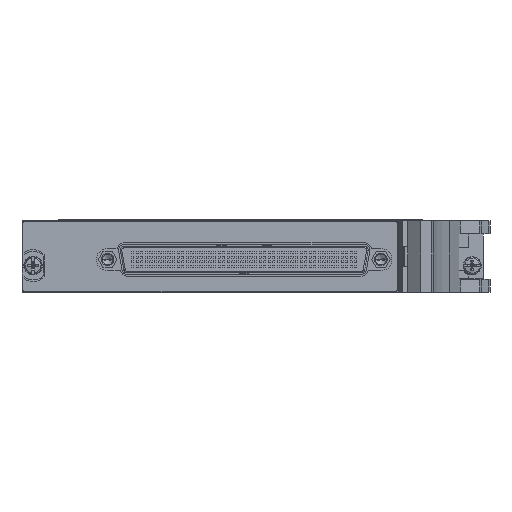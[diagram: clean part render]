
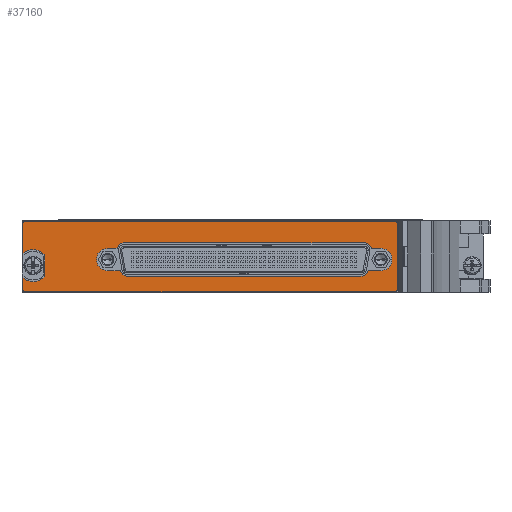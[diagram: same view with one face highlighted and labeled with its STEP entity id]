
A CAD part, left-side view. The second image highlights one B-rep face of the part: STEP entity #37160.
In plain terms, the highlighted planar face has unit normal (-1, 0, 0).
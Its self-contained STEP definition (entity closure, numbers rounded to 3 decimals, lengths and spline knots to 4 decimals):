
#6179=CARTESIAN_POINT('',(-4.2877,0.5347,0.6655));
#6180=DIRECTION('',(-1.,0.,0.));
#6181=DIRECTION('',(0.,0.,1.));
#6182=AXIS2_PLACEMENT_3D('',#6179,#6180,#6181);
#6184=DIRECTION('',(0.,1.,0.));
#6185=VECTOR('',#6184,4.07);
#6186=CARTESIAN_POINT('',(-4.2877,-3.5354,0.6855));
#6187=LINE('',#6186,#6185);
#6188=CARTESIAN_POINT('',(-4.2877,-3.5354,0.6655));
#6189=DIRECTION('',(-1.,0.,0.));
#6190=DIRECTION('',(0.,-1.,0.));
#6191=AXIS2_PLACEMENT_3D('',#6188,#6189,#6190);
#6193=DIRECTION('',(0.,0.,1.));
#6194=VECTOR('',#6193,0.728);
#6195=CARTESIAN_POINT('',(-4.2877,-3.5554,-0.0625));
#6196=LINE('',#6195,#6194);
#6197=CARTESIAN_POINT('',(-4.2877,-3.5354,-0.0625));
#6198=DIRECTION('',(-1.,0.,0.));
#6199=DIRECTION('',(0.,0.,-1.));
#6200=AXIS2_PLACEMENT_3D('',#6197,#6198,#6199);
#6202=DIRECTION('',(0.,-1.,0.));
#6203=VECTOR('',#6202,4.07);
#6204=CARTESIAN_POINT('',(-4.2877,0.5347,-0.0825));
#6205=LINE('',#6204,#6203);
#6206=CARTESIAN_POINT('',(-4.2877,0.5347,-0.0625));
#6207=DIRECTION('',(-1.,0.,0.));
#6208=DIRECTION('',(0.,1.,0.));
#6209=AXIS2_PLACEMENT_3D('',#6206,#6207,#6208);
#6211=DIRECTION('',(0.,0.,-1.));
#6212=VECTOR('',#6211,0.1295);
#6213=CARTESIAN_POINT('',(-4.2877,0.5547,0.067));
#6214=LINE('',#6213,#6212);
#6215=CARTESIAN_POINT('',(-4.2877,0.4427,0.2015));
#6216=DIRECTION('',(1.,0.,0.));
#6217=DIRECTION('',(0.,-0.737,-0.676));
#6218=AXIS2_PLACEMENT_3D('',#6215,#6216,#6217);
#6220=DIRECTION('',(0.,0.,-1.));
#6221=VECTOR('',#6220,0.2365);
#6222=CARTESIAN_POINT('',(-4.2877,0.3137,0.3198));
#6223=LINE('',#6222,#6221);
#6224=CARTESIAN_POINT('',(-4.2877,0.4427,0.2015));
#6225=DIRECTION('',(1.,0.,0.));
#6226=DIRECTION('',(0.,0.64,0.768));
#6227=AXIS2_PLACEMENT_3D('',#6224,#6225,#6226);
#6229=DIRECTION('',(0.,0.,-1.));
#6230=VECTOR('',#6229,0.3295);
#6231=CARTESIAN_POINT('',(-4.2877,0.5547,0.6655));
#6232=LINE('',#6231,#6230);
#6233=DIRECTION('',(0.,1.,0.));
#6234=VECTOR('',#6233,0.1034);
#6235=CARTESIAN_POINT('',(-4.2877,-3.3753,
0.3905));
#6236=LINE('',#6235,#6234);
#6237=CARTESIAN_POINT('',(-4.2877,-3.1921,
0.3715));
#6238=DIRECTION('',(-1.,0.,0.));
#6239=DIRECTION('',(0.,-0.973,0.232));
#6240=AXIS2_PLACEMENT_3D('',#6237,#6238,#6239);
#6242=DIRECTION('',(0.,1.,0.));
#6243=VECTOR('',#6242,2.6336);
#6244=CARTESIAN_POINT('',(-4.2877,-3.1921,
0.4535));
#6245=LINE('',#6244,#6243);
#6246=CARTESIAN_POINT('',(-4.2877,-0.5585,
0.3715));
#6247=DIRECTION('',(-1.,0.,0.));
#6248=DIRECTION('',(0.,0.,1.));
#6249=AXIS2_PLACEMENT_3D('',#6246,#6247,#6248);
#6251=DIRECTION('',(0.,1.,0.));
#6252=VECTOR('',#6251,0.1034);
#6253=CARTESIAN_POINT('',(-4.2877,-0.4788,
0.3905));
#6254=LINE('',#6253,#6252);
#6255=CARTESIAN_POINT('',(-4.2877,-0.3753,
0.2685));
#6256=DIRECTION('',(-1.,0.,0.));
#6257=DIRECTION('',(0.,0.,1.));
#6258=AXIS2_PLACEMENT_3D('',#6255,#6256,#6257);
#6260=DIRECTION('',(0.,-1.,0.));
#6261=VECTOR('',#6260,0.1396);
#6262=CARTESIAN_POINT('',(-4.2877,-0.3753,
0.1465));
#6263=LINE('',#6262,#6261);
#6264=CARTESIAN_POINT('',(-4.2877,-0.5947,
0.1655));
#6265=DIRECTION('',(-1.,0.,0.));
#6266=DIRECTION('',(0.,0.973,-0.232));
#6267=AXIS2_PLACEMENT_3D('',#6264,#6265,#6266);
#6269=DIRECTION('',(0.,-1.,0.));
#6270=VECTOR('',#6269,2.5613);
#6271=CARTESIAN_POINT('',(-4.2877,-0.5947,
0.0835));
#6272=LINE('',#6271,#6270);
#6273=CARTESIAN_POINT('',(-4.2877,-3.156,
0.1655));
#6274=DIRECTION('',(-1.,0.,0.));
#6275=DIRECTION('',(0.,0.,-1.));
#6276=AXIS2_PLACEMENT_3D('',#6273,#6274,#6275);
#6278=DIRECTION('',(0.,-1.,0.));
#6279=VECTOR('',#6278,0.1396);
#6280=CARTESIAN_POINT('',(-4.2877,-3.2357,
0.1465));
#6281=LINE('',#6280,#6279);
#6282=CARTESIAN_POINT('',(-4.2877,-3.3753,
0.2685));
#6283=DIRECTION('',(-1.,0.,0.));
#6284=DIRECTION('',(0.,0.,-1.));
#6285=AXIS2_PLACEMENT_3D('',#6282,#6283,#6284);
#32576=CARTESIAN_POINT('',(-4.2877,0.5347,0.6855));
#32577=CARTESIAN_POINT('',(-4.2877,0.5547,0.6655));
#32578=VERTEX_POINT('',#32576);
#32579=VERTEX_POINT('',#32577);
#32580=CARTESIAN_POINT('',(-4.2877,0.5547,0.336));
#32581=VERTEX_POINT('',#32580);
#32582=CARTESIAN_POINT('',(-4.2877,0.3137,0.3198));
#32583=VERTEX_POINT('',#32582);
#32584=CARTESIAN_POINT('',(-4.2877,0.3137,0.0832));
#32585=VERTEX_POINT('',#32584);
#32586=CARTESIAN_POINT('',(-4.2877,0.5547,0.067));
#32587=VERTEX_POINT('',#32586);
#32588=CARTESIAN_POINT('',(-4.2877,0.5547,-0.0625));
#32589=VERTEX_POINT('',#32588);
#32590=CARTESIAN_POINT('',(-4.2877,0.5347,-0.0825));
#32591=VERTEX_POINT('',#32590);
#32592=CARTESIAN_POINT('',(-4.2877,-3.5354,-0.0825));
#32593=VERTEX_POINT('',#32592);
#32594=CARTESIAN_POINT('',(-4.2877,-3.5554,-0.0625));
#32595=VERTEX_POINT('',#32594);
#32596=CARTESIAN_POINT('',(-4.2877,-3.5554,0.6655));
#32597=VERTEX_POINT('',#32596);
#32598=CARTESIAN_POINT('',(-4.2877,-3.5354,0.6855));
#32599=VERTEX_POINT('',#32598);
#32600=CARTESIAN_POINT('',(-4.2877,-3.3753,
0.3905));
#32601=CARTESIAN_POINT('',(-4.2877,-3.2719,
0.3905));
#32602=VERTEX_POINT('',#32600);
#32603=VERTEX_POINT('',#32601);
#32604=CARTESIAN_POINT('',(-4.2877,-3.1921,
0.4535));
#32605=VERTEX_POINT('',#32604);
#32606=CARTESIAN_POINT('',(-4.2877,-0.5585,
0.4535));
#32607=VERTEX_POINT('',#32606);
#32608=CARTESIAN_POINT('',(-4.2877,-0.4788,
0.3905));
#32609=VERTEX_POINT('',#32608);
#32610=CARTESIAN_POINT('',(-4.2877,-0.3753,
0.3905));
#32611=VERTEX_POINT('',#32610);
#32612=CARTESIAN_POINT('',(-4.2877,-0.3753,
0.1465));
#32613=VERTEX_POINT('',#32612);
#32614=CARTESIAN_POINT('',(-4.2877,-0.5149,
0.1465));
#32615=VERTEX_POINT('',#32614);
#32616=CARTESIAN_POINT('',(-4.2877,-0.5947,
0.0835));
#32617=VERTEX_POINT('',#32616);
#32618=CARTESIAN_POINT('',(-4.2877,-3.156,
0.0835));
#32619=VERTEX_POINT('',#32618);
#32620=CARTESIAN_POINT('',(-4.2877,-3.2357,
0.1465));
#32621=VERTEX_POINT('',#32620);
#32622=CARTESIAN_POINT('',(-4.2877,-3.3753,
0.1465));
#32623=VERTEX_POINT('',#32622);
#37114=CARTESIAN_POINT('',(-4.2877,0.4427,0.2015));
#37115=DIRECTION('',(-1.,0.,0.));
#37116=DIRECTION('',(0.,0.,1.));
#37117=AXIS2_PLACEMENT_3D('',#37114,#37115,#37116);
#37118=PLANE('',#37117);
#37119=ORIENTED_EDGE('',*,*,#36687,.F.);
#37121=ORIENTED_EDGE('',*,*,#37120,.F.);
#37122=ORIENTED_EDGE('',*,*,#36981,.F.);
#37123=ORIENTED_EDGE('',*,*,#36997,.F.);
#37124=ORIENTED_EDGE('',*,*,#37011,.F.);
#37125=ORIENTED_EDGE('',*,*,#37025,.F.);
#37126=ORIENTED_EDGE('',*,*,#37039,.F.);
#37127=ORIENTED_EDGE('',*,*,#37053,.F.);
#37128=ORIENTED_EDGE('',*,*,#37067,.F.);
#37129=ORIENTED_EDGE('',*,*,#37081,.F.);
#37130=ORIENTED_EDGE('',*,*,#37095,.F.);
#37131=ORIENTED_EDGE('',*,*,#37108,.F.);
#37132=EDGE_LOOP('',(#37119,#37121,#37122,#37123,#37124,#37125,#37126,#37127,
#37128,#37129,#37130,#37131));
#37133=FACE_OUTER_BOUND('',#37132,.F.);
#37135=ORIENTED_EDGE('',*,*,#37134,.T.);
#37137=ORIENTED_EDGE('',*,*,#37136,.T.);
#37139=ORIENTED_EDGE('',*,*,#37138,.T.);
#37141=ORIENTED_EDGE('',*,*,#37140,.T.);
#37143=ORIENTED_EDGE('',*,*,#37142,.T.);
#37145=ORIENTED_EDGE('',*,*,#37144,.T.);
#37147=ORIENTED_EDGE('',*,*,#37146,.T.);
#37149=ORIENTED_EDGE('',*,*,#37148,.T.);
#37151=ORIENTED_EDGE('',*,*,#37150,.T.);
#37153=ORIENTED_EDGE('',*,*,#37152,.T.);
#37155=ORIENTED_EDGE('',*,*,#37154,.T.);
#37157=ORIENTED_EDGE('',*,*,#37156,.T.);
#37158=EDGE_LOOP('',(#37135,#37137,#37139,#37141,#37143,#37145,#37147,#37149,
#37151,#37153,#37155,#37157));
#37159=FACE_BOUND('',#37158,.F.);
#37160=ADVANCED_FACE('',(#37133,#37159),#37118,.T.);
#6183=CIRCLE('',#6182,0.02);
#6192=CIRCLE('',#6191,0.02);
#6201=CIRCLE('',#6200,0.02);
#6210=CIRCLE('',#6209,0.02);
#6219=CIRCLE('',#6218,0.175);
#6228=CIRCLE('',#6227,0.175);
#6241=CIRCLE('',#6240,0.082);
#6250=CIRCLE('',#6249,0.082);
#6259=CIRCLE('',#6258,0.122);
#6268=CIRCLE('',#6267,0.082);
#6277=CIRCLE('',#6276,0.082);
#6286=CIRCLE('',#6285,0.122);
#36687=EDGE_CURVE('',#32578,#32579,#6183,.T.);
#36981=EDGE_CURVE('',#32597,#32599,#6192,.T.);
#36997=EDGE_CURVE('',#32595,#32597,#6196,.T.);
#37011=EDGE_CURVE('',#32593,#32595,#6201,.T.);
#37025=EDGE_CURVE('',#32591,#32593,#6205,.T.);
#37039=EDGE_CURVE('',#32589,#32591,#6210,.T.);
#37053=EDGE_CURVE('',#32587,#32589,#6214,.T.);
#37067=EDGE_CURVE('',#32585,#32587,#6219,.T.);
#37081=EDGE_CURVE('',#32583,#32585,#6223,.T.);
#37095=EDGE_CURVE('',#32581,#32583,#6228,.T.);
#37108=EDGE_CURVE('',#32579,#32581,#6232,.T.);
#37120=EDGE_CURVE('',#32599,#32578,#6187,.T.);
#37134=EDGE_CURVE('',#32602,#32603,#6236,.T.);
#37136=EDGE_CURVE('',#32603,#32605,#6241,.T.);
#37138=EDGE_CURVE('',#32605,#32607,#6245,.T.);
#37140=EDGE_CURVE('',#32607,#32609,#6250,.T.);
#37142=EDGE_CURVE('',#32609,#32611,#6254,.T.);
#37144=EDGE_CURVE('',#32611,#32613,#6259,.T.);
#37146=EDGE_CURVE('',#32613,#32615,#6263,.T.);
#37148=EDGE_CURVE('',#32615,#32617,#6268,.T.);
#37150=EDGE_CURVE('',#32617,#32619,#6272,.T.);
#37152=EDGE_CURVE('',#32619,#32621,#6277,.T.);
#37154=EDGE_CURVE('',#32621,#32623,#6281,.T.);
#37156=EDGE_CURVE('',#32623,#32602,#6286,.T.);
